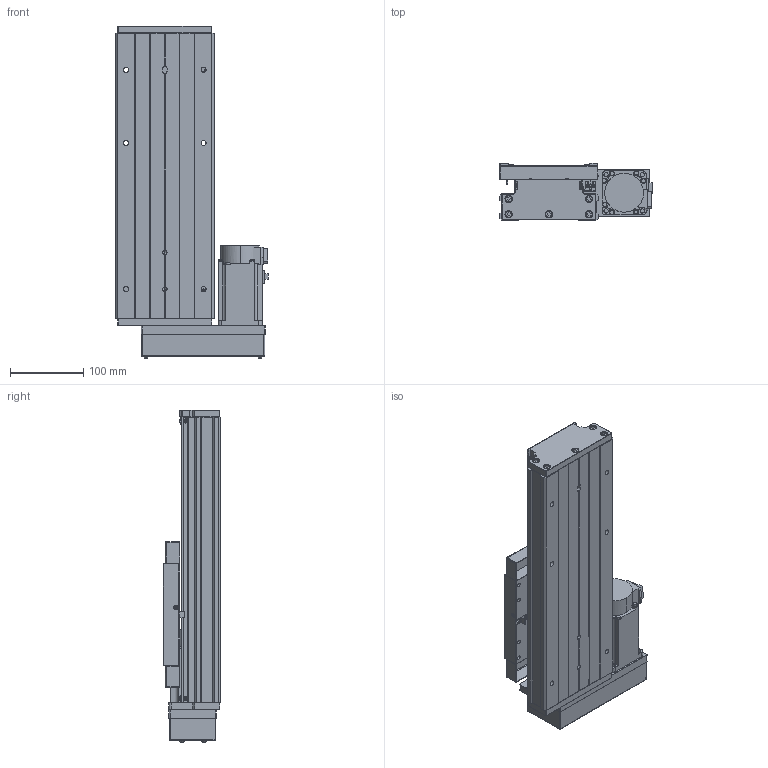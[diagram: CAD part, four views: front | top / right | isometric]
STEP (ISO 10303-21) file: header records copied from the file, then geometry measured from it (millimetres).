
FILE_DESCRIPTION (( 'STEP AP203' ), '1' );
FILE_NAME ('GTH14-150-BR-M40-C4.step', '2023-06-30T08:53:07', ( '微软用户' ), ( '微软中国' ), 'SwSTEP 2.0', 'SolidWorks 2020', '' );
FILE_SCHEMA (( 'CONFIG_CONTROL_DESIGN' ));
Length unit declared in the file: millimetre
Products named in the file (19): GBT 70.2-M3¡Á5_M3¡Á6; CTHA60-017; す晦芛蹟隊 M3℅5; GTH14-001_150; EE_SX911P_R; HG-KN43J-S100; GTH14-002_GTH14-002; CTHA60-016; GBT 70.2-M4¡Á35_M4¡Á35; GTH14-004; GBT 70.1-M3℅5; GTH14-015-2_CTHA86-015-2; GTH14-005; GBT77-2000 M3×3; GTH14-033; GB1155-6X6; GTH14-031; GTH14-150-BR-M40-C4; GBT70.1 M5℅16
Assembly tree (58 placements, depth 2):
  GTH14-150-BR-M40-C4
    GTH14-001_150
    GTH14-002_GTH14-002
    GTH14-004
    GTH14-005
    GB1155-6X6  x2
    GBT70.1 M5℅16  x10
    CTHA60-017  x3
    EE_SX911P_R  x3
    CTHA60-016  x2
    GBT 70.1-M3℅5  x6
    GBT77-2000 M3×3  x6
    GTH14-031
    GBT 70.2-M3¡Á5_M3¡Á6  x8
    す晦芛蹟隊 M3℅5  x6
    HG-KN43J-S100
    GBT 70.2-M4¡Á35_M4¡Á35  x4
    GTH14-015-2_CTHA86-015-2
    GTH14-033
Bounding box: 209.3 x 78 x 454.2 mm (x, y, z)
Volume: 2885095.6 mm3; surface area: 560762.6 mm2
Topology: 61 solids, 61 shells, 2433 faces, 5785 edges, 3562 vertices
Faces by surface type: plane 1303, cylinder 640, cone 314, torus 124, sphere 32, bspline 20
Entity records: 43542 total; most frequent: CARTESIAN_POINT 9757, DIRECTION 6369, ORIENTED_EDGE 6260, EDGE_CURVE 3130, AXIS2_PLACEMENT_3D 2166, VECTOR 2037, LINE 2037, VERTEX_POINT 1980
